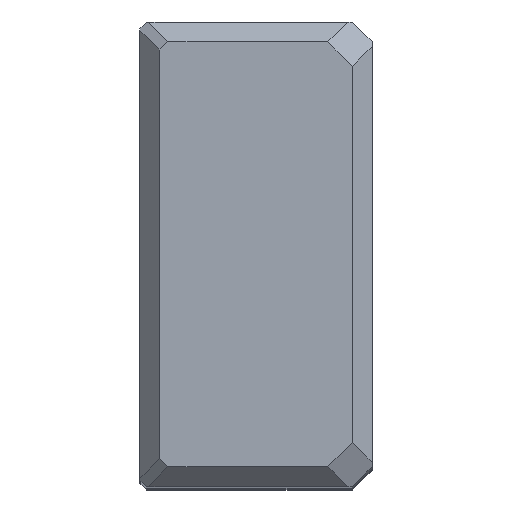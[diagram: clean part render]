
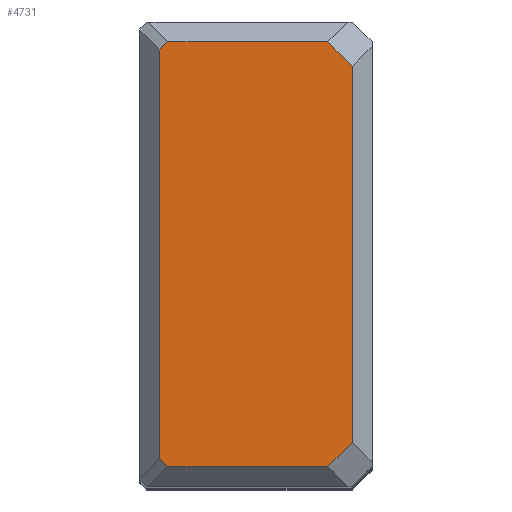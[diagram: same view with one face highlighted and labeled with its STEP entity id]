
A CAD part, top view. The second image highlights one B-rep face of the part: STEP entity #4731.
In plain terms, the highlighted planar face has unit normal (0, 0, 1).
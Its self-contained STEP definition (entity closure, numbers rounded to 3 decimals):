
#95=VERTEX_POINT(' ',#96);
#96=CARTESIAN_POINT('',(-3.,-28.326,0.));
#97=VERTEX_POINT(' ',#98);
#98=CARTESIAN_POINT('',(-6.674,-32.,0.));
#127=VERTEX_POINT(' ',#128);
#128=CARTESIAN_POINT('',(-3.,28.326,0.));
#135=VERTEX_POINT(' ',#136);
#136=CARTESIAN_POINT('',(-6.674,32.,0.));
#165=VERTEX_POINT(' ',#166);
#166=CARTESIAN_POINT('',(-30.775,-32.,0.));
#173=VERTEX_POINT(' ',#174);
#174=CARTESIAN_POINT('',(-32.,-30.775,0.));
#191=VERTEX_POINT(' ',#192);
#192=CARTESIAN_POINT('',(-32.,30.775,0.));
#195=VERTEX_POINT(' ',#196);
#196=CARTESIAN_POINT('',(-30.775,32.,0.));
#936=LINE('',#937,#938);
#937=CARTESIAN_POINT('',(12.663,-12.663,0.));
#938=VECTOR('',#939,1.);
#939=DIRECTION('',(0.707,0.707,0.));
#940=EDGE_CURVE(' ',#95,#97,#936,.F.);
#1066=LINE('',#1067,#1068);
#1067=CARTESIAN_POINT('',(-3.,-35.12,0.));
#1068=VECTOR('',#1069,1.);
#1069=DIRECTION('',(0.,1.,0.));
#1070=EDGE_CURVE(' ',#95,#127,#1066,.T.);
#1091=LINE('',#1092,#1093);
#1092=CARTESIAN_POINT('',(12.663,12.663,0.));
#1093=VECTOR('',#1094,1.);
#1094=DIRECTION('',(-0.707,0.707,0.));
#1095=EDGE_CURVE(' ',#135,#127,#1091,.F.);
#1256=LINE('',#1257,#1258);
#1257=CARTESIAN_POINT('',(-35.12,-32.,0.));
#1258=VECTOR('',#1259,1.);
#1259=DIRECTION('',(1.,0.,0.));
#1260=EDGE_CURVE(' ',#165,#97,#1256,.T.);
#1271=LINE('',#1272,#1273);
#1272=CARTESIAN_POINT('',(-31.388,-31.388,0.));
#1273=VECTOR('',#1274,1.);
#1274=DIRECTION('',(0.707,-0.707,0.));
#1275=EDGE_CURVE(' ',#165,#173,#1271,.F.);
#1363=LINE('',#1364,#1365);
#1364=CARTESIAN_POINT('',(-32.,-35.12,0.));
#1365=VECTOR('',#1366,1.);
#1366=DIRECTION('',(0.,1.,0.));
#1367=EDGE_CURVE(' ',#173,#191,#1363,.T.);
#1368=LINE('',#1369,#1370);
#1369=CARTESIAN_POINT('',(-31.388,31.388,0.));
#1370=VECTOR('',#1371,1.);
#1371=DIRECTION('',(-0.707,-0.707,0.));
#1372=EDGE_CURVE(' ',#191,#195,#1368,.F.);
#1373=LINE('',#1374,#1375);
#1374=CARTESIAN_POINT('',(-35.12,32.,0.));
#1375=VECTOR('',#1376,1.);
#1376=DIRECTION('',(1.,0.,0.));
#1377=EDGE_CURVE(' ',#135,#195,#1373,.F.);
#4716=ORIENTED_EDGE('',*,*,#1372,.F.);
#4717=ORIENTED_EDGE('',*,*,#1367,.F.);
#4718=ORIENTED_EDGE('',*,*,#1275,.F.);
#4719=ORIENTED_EDGE('',*,*,#1260,.T.);
#4720=ORIENTED_EDGE('',*,*,#940,.F.);
#4721=ORIENTED_EDGE('',*,*,#1070,.T.);
#4722=ORIENTED_EDGE('',*,*,#1095,.F.);
#4723=ORIENTED_EDGE('',*,*,#1377,.T.);
#4724=EDGE_LOOP('',(#4716,#4717,#4718,#4719,#4720,#4721,#4722,#4723));
#4725=FACE_OUTER_BOUND('',#4724,.T.);
#4726=PLANE('',#4727);
#4727=AXIS2_PLACEMENT_3D('',#4728,#4729,#4730);
#4728=CARTESIAN_POINT('',(-32.,0.,0.));
#4729=DIRECTION('',(0.,0.,1.));
#4730=DIRECTION('',(1.,0.,0.));
#4731=ADVANCED_FACE('',(#4725),#4726,.T.);
